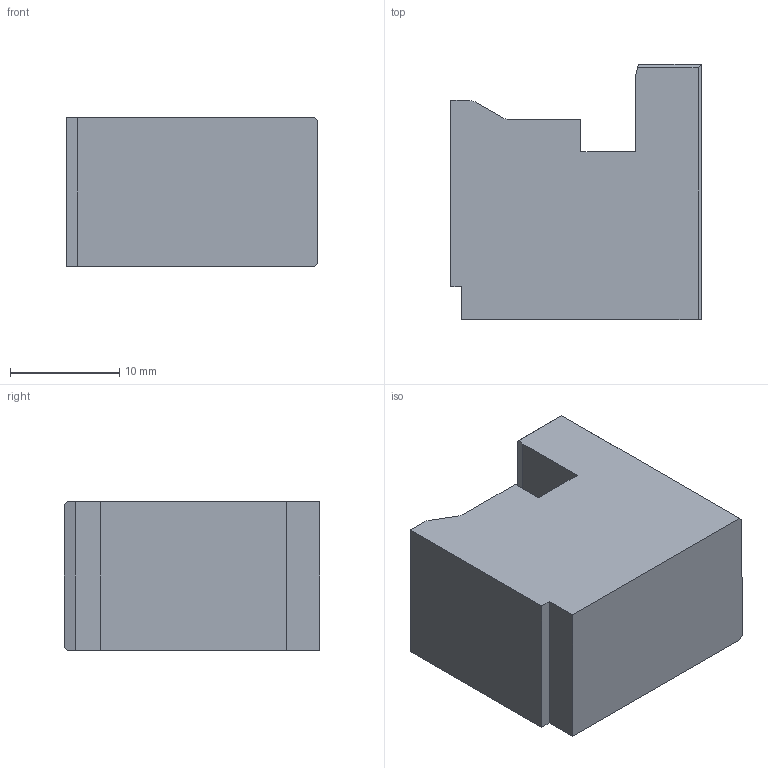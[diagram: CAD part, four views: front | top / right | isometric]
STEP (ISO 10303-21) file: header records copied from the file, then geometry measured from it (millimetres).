
FILE_DESCRIPTION (( 'STEP AP203' ), '1' );
FILE_NAME ('95-JTSSRPJ-ZPS-K褐狟耀.step', '2026-06-30T11:13:55', ( '' ), ( '' ), 'SwSTEP 2.0', 'SolidWorks 2024', '' );
FILE_SCHEMA (( 'CONFIG_CONTROL_DESIGN' ));
Length unit declared in the file: millimetre
Products named in the file (1): 95-JTSSRPJ-ZPS-K脚下模
Bounding box: 22.9 x 23.3 x 13.6 mm (x, y, z)
Volume: 5760.8 mm3; surface area: 2393.2 mm2
Topology: 1 solids, 1 shells, 25 faces, 65 edges, 41 vertices
Faces by surface type: plane 19, cylinder 4, cone 2
Entity records: 818 total; most frequent: CARTESIAN_POINT 130, ORIENTED_EDGE 126, DIRECTION 123, EDGE_CURVE 63, VECTOR 55, LINE 55, VERTEX_POINT 41, AXIS2_PLACEMENT_3D 34
